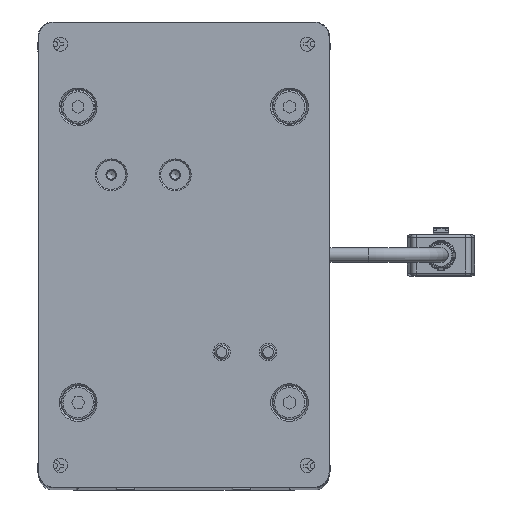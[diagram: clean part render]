
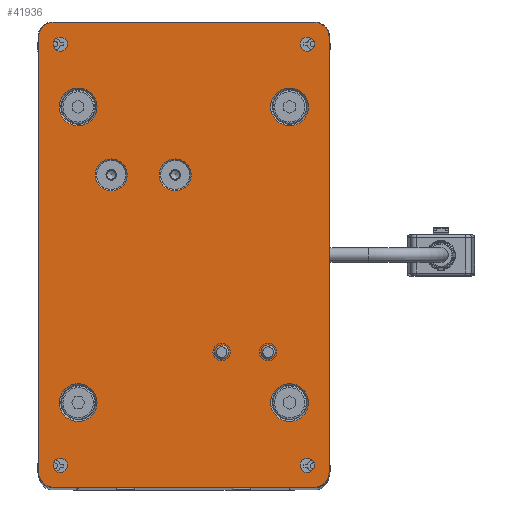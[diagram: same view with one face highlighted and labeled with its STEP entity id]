
A CAD part, top view. The second image highlights one B-rep face of the part: STEP entity #41936.
In plain terms, the highlighted planar face has unit normal (0, 0, 1).
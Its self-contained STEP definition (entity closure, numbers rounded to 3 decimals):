
#3834=CIRCLE('',#55570,5.);
#3836=CIRCLE('',#55574,5.);
#3838=CIRCLE('',#55578,5.);
#3840=CIRCLE('',#55582,5.);
#3841=CIRCLE('',#55585,5.5);
#3842=CIRCLE('',#55586,5.5);
#3843=CIRCLE('',#55587,2.459);
#3844=CIRCLE('',#55588,2.459);
#3845=CIRCLE('',#55589,6.5);
#3846=CIRCLE('',#55590,6.5);
#3847=CIRCLE('',#55591,6.5);
#3848=CIRCLE('',#55592,6.5);
#3849=CIRCLE('',#55593,2.459);
#3850=CIRCLE('',#55594,2.459);
#3851=CIRCLE('',#55595,2.459);
#3852=CIRCLE('',#55596,2.459);
#13870=ORIENTED_EDGE('',*,*,#21241,.T.);
#13871=ORIENTED_EDGE('',*,*,#21242,.T.);
#13872=ORIENTED_EDGE('',*,*,#21243,.F.);
#13873=ORIENTED_EDGE('',*,*,#21244,.F.);
#13874=ORIENTED_EDGE('',*,*,#21245,.T.);
#13875=ORIENTED_EDGE('',*,*,#21246,.T.);
#13876=ORIENTED_EDGE('',*,*,#21247,.T.);
#13877=ORIENTED_EDGE('',*,*,#21248,.T.);
#13878=ORIENTED_EDGE('',*,*,#21249,.F.);
#13879=ORIENTED_EDGE('',*,*,#21250,.F.);
#13880=ORIENTED_EDGE('',*,*,#21251,.F.);
#13881=ORIENTED_EDGE('',*,*,#21252,.F.);
#13882=ORIENTED_EDGE('',*,*,#21219,.T.);
#13883=ORIENTED_EDGE('',*,*,#21223,.T.);
#13884=ORIENTED_EDGE('',*,*,#21226,.T.);
#13885=ORIENTED_EDGE('',*,*,#21229,.T.);
#13886=ORIENTED_EDGE('',*,*,#21232,.T.);
#13887=ORIENTED_EDGE('',*,*,#21235,.T.);
#13888=ORIENTED_EDGE('',*,*,#21238,.T.);
#13889=ORIENTED_EDGE('',*,*,#21240,.T.);
#21219=EDGE_CURVE('',#25634,#25633,#3834,.T.);
#21223=EDGE_CURVE('',#25633,#25636,#29044,.T.);
#21226=EDGE_CURVE('',#25636,#25638,#3836,.T.);
#21229=EDGE_CURVE('',#25638,#25640,#29048,.T.);
#21232=EDGE_CURVE('',#25640,#25642,#3838,.T.);
#21235=EDGE_CURVE('',#25642,#25644,#29052,.T.);
#21238=EDGE_CURVE('',#25644,#25646,#3840,.T.);
#21240=EDGE_CURVE('',#25646,#25634,#29055,.T.);
#21241=EDGE_CURVE('',#25647,#25647,#3841,.T.);
#21242=EDGE_CURVE('',#25648,#25648,#3842,.T.);
#21243=EDGE_CURVE('',#25649,#25649,#3843,.T.);
#21244=EDGE_CURVE('',#25650,#25650,#3844,.T.);
#21245=EDGE_CURVE('',#25651,#25651,#3845,.T.);
#21246=EDGE_CURVE('',#25652,#25652,#3846,.T.);
#21247=EDGE_CURVE('',#25653,#25653,#3847,.T.);
#21248=EDGE_CURVE('',#25654,#25654,#3848,.T.);
#21249=EDGE_CURVE('',#25655,#25655,#3849,.T.);
#21250=EDGE_CURVE('',#25656,#25656,#3850,.T.);
#21251=EDGE_CURVE('',#25657,#25657,#3851,.T.);
#21252=EDGE_CURVE('',#25658,#25658,#3852,.T.);
#25633=VERTEX_POINT('',#81022);
#25634=VERTEX_POINT('',#81024);
#25636=VERTEX_POINT('',#81030);
#25638=VERTEX_POINT('',#81036);
#25640=VERTEX_POINT('',#81042);
#25642=VERTEX_POINT('',#81048);
#25644=VERTEX_POINT('',#81054);
#25646=VERTEX_POINT('',#81060);
#25647=VERTEX_POINT('',#81067);
#25648=VERTEX_POINT('',#81069);
#25649=VERTEX_POINT('',#81071);
#25650=VERTEX_POINT('',#81073);
#25651=VERTEX_POINT('',#81075);
#25652=VERTEX_POINT('',#81077);
#25653=VERTEX_POINT('',#81079);
#25654=VERTEX_POINT('',#81081);
#25655=VERTEX_POINT('',#81083);
#25656=VERTEX_POINT('',#81085);
#25657=VERTEX_POINT('',#81087);
#25658=VERTEX_POINT('',#81089);
#29044=LINE('',#81031,#32356);
#29048=LINE('',#81043,#32360);
#29052=LINE('',#81055,#32364);
#29055=LINE('',#81064,#32367);
#32356=VECTOR('',#66763,1000.);
#32360=VECTOR('',#66775,1000.);
#32364=VECTOR('',#66787,1000.);
#32367=VECTOR('',#66798,1000.);
#35321=EDGE_LOOP('',(#13870));
#35322=EDGE_LOOP('',(#13871));
#35323=EDGE_LOOP('',(#13872));
#35324=EDGE_LOOP('',(#13873));
#35325=EDGE_LOOP('',(#13874));
#35326=EDGE_LOOP('',(#13875));
#35327=EDGE_LOOP('',(#13876));
#35328=EDGE_LOOP('',(#13877));
#35329=EDGE_LOOP('',(#13878));
#35330=EDGE_LOOP('',(#13879));
#35331=EDGE_LOOP('',(#13880));
#35332=EDGE_LOOP('',(#13881));
#35333=EDGE_LOOP('',(#13882,#13883,#13884,#13885,#13886,#13887,#13888,#13889));
#38155=FACE_BOUND('',#35321,.T.);
#38156=FACE_BOUND('',#35322,.T.);
#38157=FACE_BOUND('',#35323,.T.);
#38158=FACE_BOUND('',#35324,.T.);
#38159=FACE_BOUND('',#35325,.T.);
#38160=FACE_BOUND('',#35326,.T.);
#38161=FACE_BOUND('',#35327,.T.);
#38162=FACE_BOUND('',#35328,.T.);
#38163=FACE_BOUND('',#35329,.T.);
#38164=FACE_BOUND('',#35330,.T.);
#38165=FACE_BOUND('',#35331,.T.);
#38166=FACE_BOUND('',#35332,.T.);
#38167=FACE_BOUND('',#35333,.T.);
#39735=PLANE('',#55584);
#41936=ADVANCED_FACE('',(#38155,#38156,#38157,#38158,#38159,#38160,#38161,
#38162,#38163,#38164,#38165,#38166,#38167),#39735,.T.);
#55570=AXIS2_PLACEMENT_3D('',#81023,#66756,#66757);
#55574=AXIS2_PLACEMENT_3D('',#81037,#66769,#66770);
#55578=AXIS2_PLACEMENT_3D('',#81049,#66781,#66782);
#55582=AXIS2_PLACEMENT_3D('',#81061,#66793,#66794);
#55584=AXIS2_PLACEMENT_3D('',#81065,#66799,#66800);
#55585=AXIS2_PLACEMENT_3D('',#81066,#66801,#66802);
#55586=AXIS2_PLACEMENT_3D('',#81068,#66803,#66804);
#55587=AXIS2_PLACEMENT_3D('',#81070,#66805,#66806);
#55588=AXIS2_PLACEMENT_3D('',#81072,#66807,#66808);
#55589=AXIS2_PLACEMENT_3D('',#81074,#66809,#66810);
#55590=AXIS2_PLACEMENT_3D('',#81076,#66811,#66812);
#55591=AXIS2_PLACEMENT_3D('',#81078,#66813,#66814);
#55592=AXIS2_PLACEMENT_3D('',#81080,#66815,#66816);
#55593=AXIS2_PLACEMENT_3D('',#81082,#66817,#66818);
#55594=AXIS2_PLACEMENT_3D('',#81084,#66819,#66820);
#55595=AXIS2_PLACEMENT_3D('',#81086,#66821,#66822);
#55596=AXIS2_PLACEMENT_3D('',#81088,#66823,#66824);
#66756=DIRECTION('',(0.,0.,1.));
#66757=DIRECTION('',(1.,0.,0.));
#66763=DIRECTION('',(1.,0.,0.));
#66769=DIRECTION('',(0.,0.,1.));
#66770=DIRECTION('',(-1.,0.,0.));
#66775=DIRECTION('',(0.,1.,0.));
#66781=DIRECTION('',(0.,0.,1.));
#66782=DIRECTION('',(1.,0.,0.));
#66787=DIRECTION('',(-1.,0.,0.));
#66793=DIRECTION('',(0.,0.,1.));
#66794=DIRECTION('',(1.,0.,0.));
#66798=DIRECTION('',(0.,-1.,0.));
#66799=DIRECTION('',(0.,0.,1.));
#66800=DIRECTION('',(1.,0.,0.));
#66801=DIRECTION('',(0.,0.,-1.));
#66802=DIRECTION('',(0.,1.,0.));
#66803=DIRECTION('',(0.,0.,-1.));
#66804=DIRECTION('',(0.,1.,0.));
#66805=DIRECTION('',(0.,0.,1.));
#66806=DIRECTION('',(1.,0.,0.));
#66807=DIRECTION('',(0.,0.,1.));
#66808=DIRECTION('',(1.,0.,0.));
#66809=DIRECTION('',(0.,0.,-1.));
#66810=DIRECTION('',(1.,0.,0.));
#66811=DIRECTION('',(0.,0.,-1.));
#66812=DIRECTION('',(1.,0.,0.));
#66813=DIRECTION('',(0.,0.,-1.));
#66814=DIRECTION('',(1.,0.,0.));
#66815=DIRECTION('',(0.,0.,-1.));
#66816=DIRECTION('',(1.,0.,0.));
#66817=DIRECTION('',(0.,0.,1.));
#66818=DIRECTION('',(1.,0.,0.));
#66819=DIRECTION('',(0.,0.,1.));
#66820=DIRECTION('',(1.,0.,0.));
#66821=DIRECTION('',(0.,0.,1.));
#66822=DIRECTION('',(1.,0.,0.));
#66823=DIRECTION('',(0.,0.,1.));
#66824=DIRECTION('',(1.,0.,0.));
#81022=CARTESIAN_POINT('',(-75.,-50.,8.));
#81023=CARTESIAN_POINT('',(-75.,-45.,8.));
#81024=CARTESIAN_POINT('',(-80.,-45.,8.));
#81030=CARTESIAN_POINT('',(75.,-50.,8.));
#81031=CARTESIAN_POINT('',(-75.,-50.,8.));
#81036=CARTESIAN_POINT('',(80.,-45.,8.));
#81037=CARTESIAN_POINT('',(75.,-45.,8.));
#81042=CARTESIAN_POINT('',(80.,45.,8.));
#81043=CARTESIAN_POINT('',(80.,-45.,8.));
#81048=CARTESIAN_POINT('',(75.,50.,8.));
#81049=CARTESIAN_POINT('',(75.,45.,8.));
#81054=CARTESIAN_POINT('',(-75.,50.,8.));
#81055=CARTESIAN_POINT('',(75.,50.,8.));
#81060=CARTESIAN_POINT('',(-80.,45.,8.));
#81061=CARTESIAN_POINT('',(-75.,45.,8.));
#81064=CARTESIAN_POINT('',(-80.,45.,8.));
#81065=CARTESIAN_POINT('',(-75.,-45.,8.));
#81066=CARTESIAN_POINT('',(27.5,3.,8.));
#81067=CARTESIAN_POINT('',(27.5,8.5,8.));
#81068=CARTESIAN_POINT('',(27.5,25.,8.));
#81069=CARTESIAN_POINT('',(27.5,30.5,8.));
#81070=CARTESIAN_POINT('',(-33.5,-13.,8.));
#81071=CARTESIAN_POINT('',(-31.042,-13.,8.));
#81072=CARTESIAN_POINT('',(-33.5,-29.,8.));
#81073=CARTESIAN_POINT('',(-31.042,-29.,8.));
#81074=CARTESIAN_POINT('',(-50.9,-36.4,8.));
#81075=CARTESIAN_POINT('',(-44.4,-36.4,8.));
#81076=CARTESIAN_POINT('',(50.9,-36.4,8.));
#81077=CARTESIAN_POINT('',(57.4,-36.4,8.));
#81078=CARTESIAN_POINT('',(50.9,36.4,8.));
#81079=CARTESIAN_POINT('',(57.4,36.4,8.));
#81080=CARTESIAN_POINT('',(-50.9,36.4,8.));
#81081=CARTESIAN_POINT('',(-44.4,36.4,8.));
#81082=CARTESIAN_POINT('',(-72.5,-42.5,8.));
#81083=CARTESIAN_POINT('',(-70.042,-42.5,8.));
#81084=CARTESIAN_POINT('',(72.5,-42.5,8.));
#81085=CARTESIAN_POINT('',(74.959,-42.5,8.));
#81086=CARTESIAN_POINT('',(72.5,42.5,8.));
#81087=CARTESIAN_POINT('',(74.959,42.5,8.));
#81088=CARTESIAN_POINT('',(-72.5,42.5,8.));
#81089=CARTESIAN_POINT('',(-70.042,42.5,8.));
